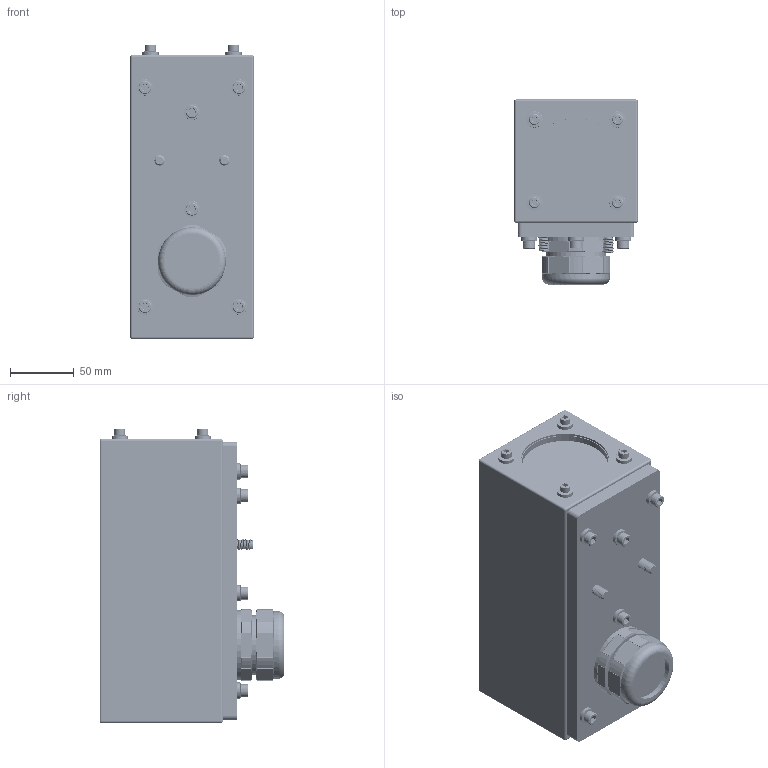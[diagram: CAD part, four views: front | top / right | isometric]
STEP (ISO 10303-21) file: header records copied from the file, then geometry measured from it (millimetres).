
FILE_DESCRIPTION (( 'STEP AP203' ), '1' );
FILE_NAME ('38D-DU.STEP', '2022-02-17T13:41:23', ( '' ), ( '' ), 'SwSTEP 2.0', 'SolidWorks 2021', '' );
FILE_SCHEMA (( 'CONFIG_CONTROL_DESIGN' ));
Length unit declared in the file: inch
Products named in the file (24): 93625A200; 94709A214; 201094; 500100; 91292A137; 9452K15; 94709A417; 91292A128; 91292A116; SP-M6-1; 400133; PG36-S01; PG36-B01; 400235; 200309; 201096; PG36-I01; PG36-N03; 93635A318; 201093; 38D-DU; 94709A212; PG36-01-01-01-03; 200654
Assembly tree (51 placements, depth 3):
  38D-DU
    201093
      201094
      SP-M6-1  x4
    200654
    400235
    201096
    500100
    400133
    200309
    93625A200  x4
    91292A137  x6
    94709A214  x6
    91292A116  x2
    94709A417  x2
    93635A318  x2
    9452K15  x4
    PG36-01-01-01-03
      PG36-B01
      PG36-I01
      PG36-S01
      PG36-N03
    94709A212  x4
    91292A128  x4
Bounding box: 96.52 x 144.63 x 230.1 mm (x, y, z)
Volume: 467418.2 mm3; surface area: 334080.2 mm2
Topology: 66 solids, 66 shells, 2711 faces, 7189 edges, 4627 vertices
Faces by surface type: cylinder 1589, plane 567, cone 328, sphere 100, torus 85, bspline 42
Entity records: 44457 total; most frequent: CARTESIAN_POINT 17501, ORIENTED_EDGE 5256, DIRECTION 4727, EDGE_CURVE 2628, AXIS2_PLACEMENT_3D 1816, VERTEX_POINT 1684, EDGE_LOOP 1126, LINE 1095
